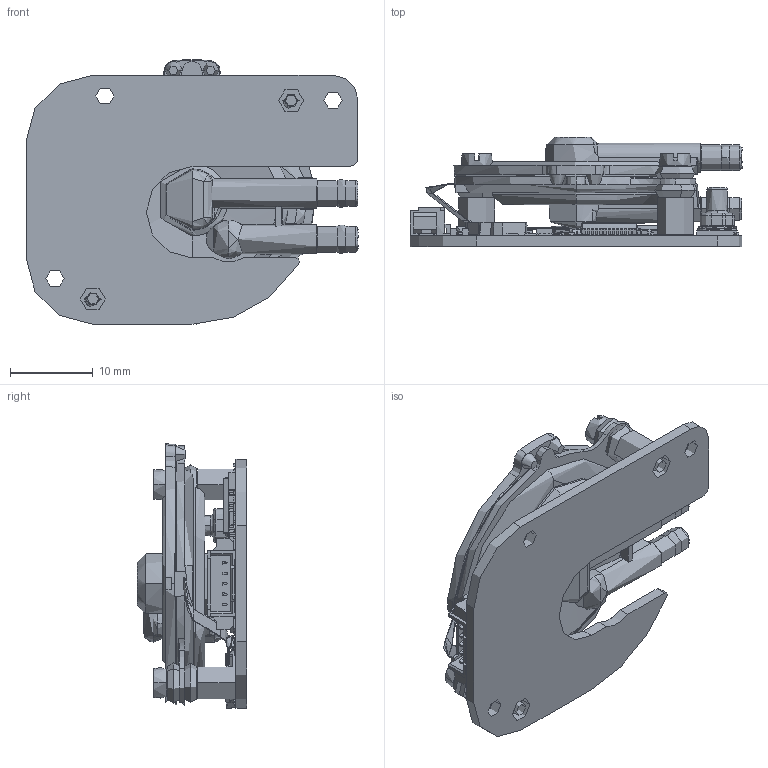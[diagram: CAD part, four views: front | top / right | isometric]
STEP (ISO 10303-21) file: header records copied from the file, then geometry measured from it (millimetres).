
FILE_DESCRIPTION (( 'STEP AP203' ), '1' );
FILE_NAME ('59017-900-0421 Single Pump Module Gen2,2.STEP', '2022-01-28T17:35:03', ( '' ), ( '' ), 'SwSTEP 2.0', 'SolidWorks 2017', '' );
FILE_SCHEMA (( 'CONFIG_CONTROL_DESIGN' ));
Length unit declared in the file: millimetre
Products named in the file (7): ttp-ventus-disc-pump-bl-xp-lt-series-model; EK-02-0034; 59017-900-0453; 59017-900-0450 sub part flexi tail; 59017-900-0450-sub-part-rigidiser; EK-02-0035; 59017-900-0421 Single Pump Module Gen2,2
Assembly tree (10 placements, depth 2):
  59017-900-0421 Single Pump Module Gen2,2
    59017-900-0453
    ttp-ventus-disc-pump-bl-xp-lt-series-model
    59017-900-0450 sub part flexi tail
    59017-900-0450-sub-part-rigidiser
    EK-02-0035  x4
    EK-02-0034  x2
Bounding box: 40 x 13.2 x 31.9 mm (x, y, z)
Topology: 10 solids, 90 shells, 1827 faces, 5765 edges, 3977 vertices
Faces by surface type: plane 1220, cylinder 413, bspline 91, cone 60, torus 39, sphere 4
Entity records: 67429 total; most frequent: CARTESIAN_POINT 20005, ORIENTED_EDGE 9555, DIRECTION 8724, EDGE_CURVE 5586, VERTEX_POINT 3873, VECTOR 3726, LINE 3726, AXIS2_PLACEMENT_3D 2499
